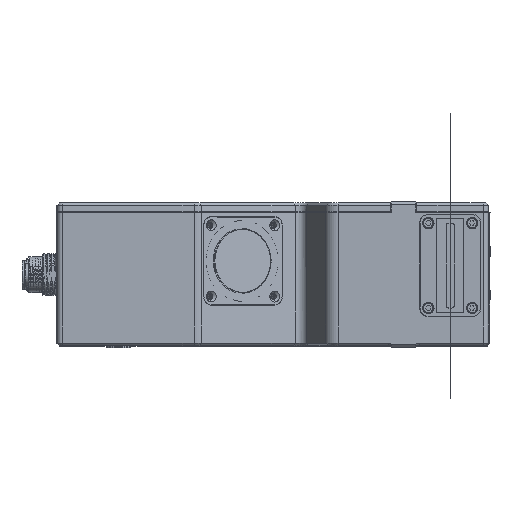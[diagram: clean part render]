
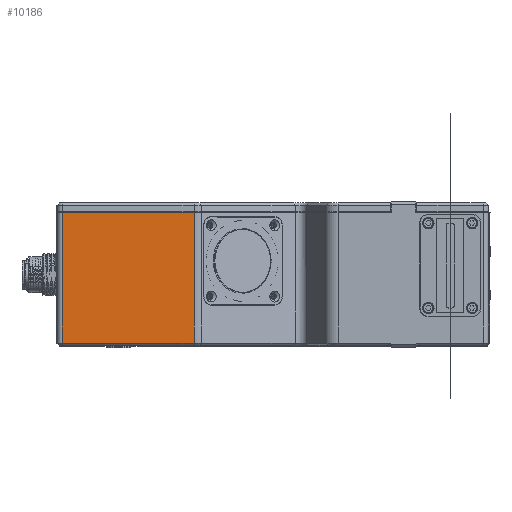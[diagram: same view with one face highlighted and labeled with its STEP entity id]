
A CAD part, top view. The second image highlights one B-rep face of the part: STEP entity #10186.
In plain terms, the highlighted planar face has unit normal (0, 0, -1).
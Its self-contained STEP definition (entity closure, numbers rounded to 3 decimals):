
#6626=DIRECTION('',(0.,-1.,0.));
#6627=VECTOR('',#6626,47.7);
#6628=CARTESIAN_POINT('',(-76.75,2.7,46.25));
#6629=LINE('',#6628,#6627);
#6634=DIRECTION('',(1.,0.,0.));
#6635=VECTOR('',#6634,48.06);
#6636=CARTESIAN_POINT('',(-76.75,-45.,
46.25));
#6637=LINE('',#6636,#6635);
#6638=DIRECTION('',(-1.,0.,0.));
#6639=VECTOR('',#6638,48.06);
#6640=CARTESIAN_POINT('',(-28.69,2.7,46.25));
#6641=LINE('',#6640,#6639);
#6646=DIRECTION('',(0.,1.,0.));
#6647=VECTOR('',#6646,47.7);
#6648=CARTESIAN_POINT('',(-28.69,-45.,
46.25));
#6649=LINE('',#6648,#6647);
#8312=CARTESIAN_POINT('',(-28.69,-45.,
46.25));
#8313=VERTEX_POINT('',#8312);
#8314=CARTESIAN_POINT('',(-76.75,-45.,
46.25));
#8315=VERTEX_POINT('',#8314);
#8385=CARTESIAN_POINT('',(-28.69,2.7,46.25));
#8386=VERTEX_POINT('',#8385);
#8387=CARTESIAN_POINT('',(-76.75,2.7,46.25));
#8388=VERTEX_POINT('',#8387);
#10174=CARTESIAN_POINT('',(-52.72,-21.15,46.25));
#10175=DIRECTION('',(0.,0.,1.));
#10176=DIRECTION('',(1.,0.,0.));
#10177=AXIS2_PLACEMENT_3D('',#10174,#10175,#10176);
#10178=PLANE('',#10177);
#10179=ORIENTED_EDGE('',*,*,#9911,.T.);
#10181=ORIENTED_EDGE('',*,*,#10180,.T.);
#10182=ORIENTED_EDGE('',*,*,#10022,.T.);
#10183=ORIENTED_EDGE('',*,*,#10167,.T.);
#10184=EDGE_LOOP('',(#10179,#10181,#10182,#10183));
#10185=FACE_OUTER_BOUND('',#10184,.F.);
#9911=EDGE_CURVE('',#8315,#8313,#6637,.T.);
#10022=EDGE_CURVE('',#8386,#8388,#6641,.T.);
#10167=EDGE_CURVE('',#8388,#8315,#6629,.T.);
#10180=EDGE_CURVE('',#8313,#8386,#6649,.T.);
#10186=ADVANCED_FACE('',(#10185),#10178,.F.);
